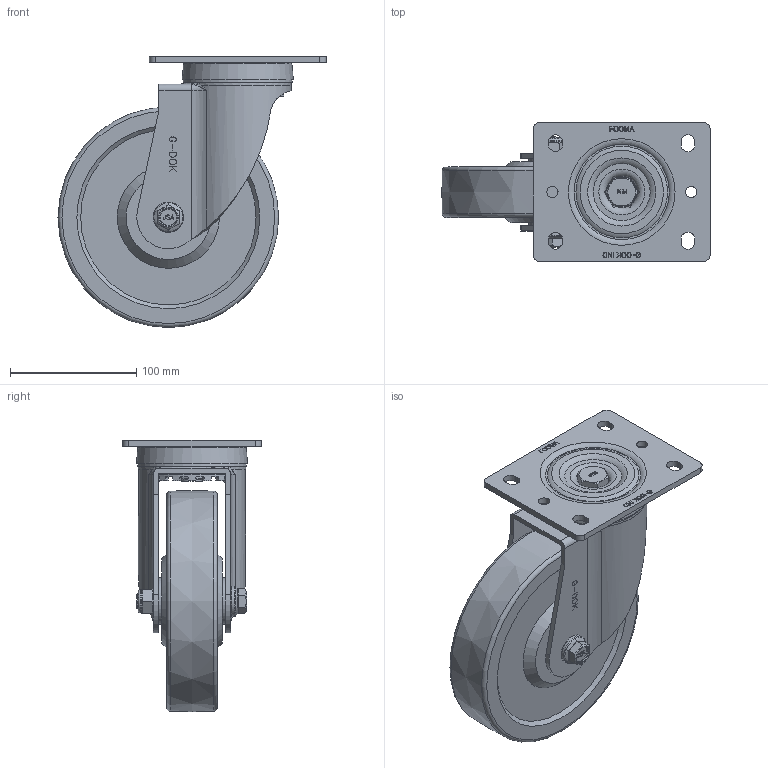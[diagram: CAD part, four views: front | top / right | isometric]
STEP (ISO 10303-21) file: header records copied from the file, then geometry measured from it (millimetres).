
FILE_DESCRIPTION(/* description */ (''),/* implementation_level */ '2;1');
FILE_NAME(/* name */ '\\192.168.10.38\지덕공유\1.기술연구소\2.연구개발 진행중\28.PLM-SERIES_MEDIUM\제품설계\홈페이지용 도면\PLM-175-ASF-MCD-PEU.stp',/* time_stamp */ '2022-03-04T18:16:08+09:00',/* author */ ('admin'),/* organization */ (''),/* preprocessor_version */ 'ST-DEVELOPER v18.1',/* originating_system */ 'Autodesk Inventor 2021',/* authorisation */ '');
FILE_SCHEMA (('AUTOMOTIVE_DESIGN { 1 0 10303 214 3 1 1 }'));
Length unit declared in the file: millimetre
Products named in the file (1): PLM-175-ASF-MCD-PEU
Bounding box: 212.5 x 110 x 215 mm (x, y, z)
Volume: 1213082.3 mm3; surface area: 159217.1 mm2
Topology: 1 solids, 1 shells, 1004 faces, 2765 edges, 1824 vertices
Faces by surface type: plane 680, bspline 142, cylinder 118, cone 36, torus 28
Full cylindrical faces by diameter (mm): 9 x2, 12 x1, 14 x1, 16 x1, 18.5 x1, 24 x1, 37 x2, 64.8 x1, 72.8 x1, 85.857 x1
Entity records: 35128 total; most frequent: CARTESIAN_POINT 10789, ORIENTED_EDGE 5522, DIRECTION 4250, EDGE_CURVE 2761, LINE 1912, VECTOR 1912, VERTEX_POINT 1824, AXIS2_PLACEMENT_3D 1169
